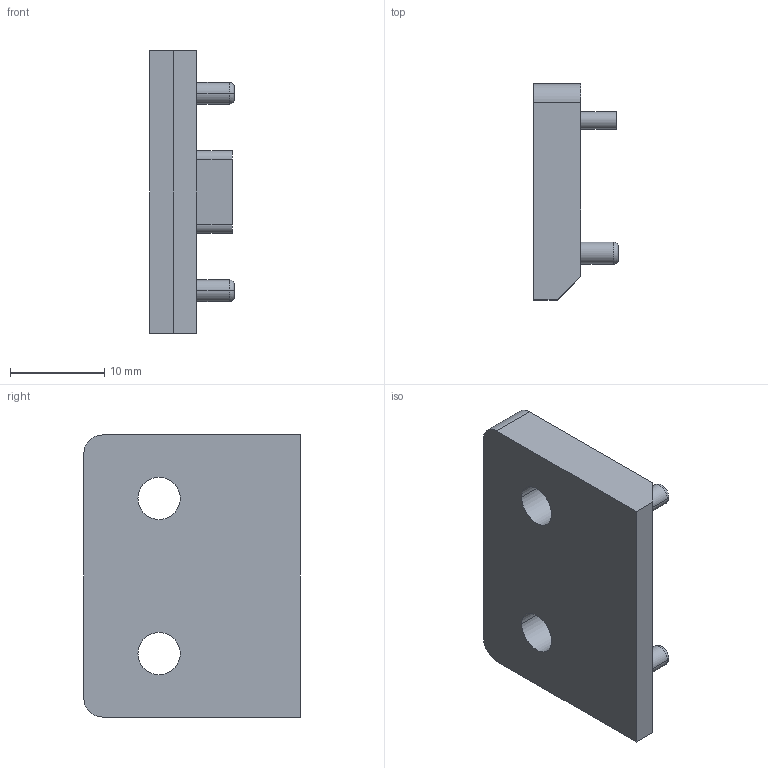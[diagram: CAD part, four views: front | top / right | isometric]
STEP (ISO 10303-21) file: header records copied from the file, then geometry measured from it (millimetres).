
FILE_DESCRIPTION (( 'STEP AP203' ), '1' );
FILE_NAME ('F043351.STEP', '2017-03-22T12:59:34', ( 'Localadmin' ), ( 'Microsoft' ), 'SwSTEP 2.0', 'SolidWorks 2016', '' );
FILE_SCHEMA (( 'CONFIG_CONTROL_DESIGN' ));
Length unit declared in the file: millimetre
Products named in the file (1): F043351
Bounding box: 9 x 23 x 30 mm (x, y, z)
Volume: 3278.7 mm3; surface area: 2054.7 mm2
Topology: 1 solids, 1 shells, 28 faces, 65 edges, 42 vertices
Faces by surface type: cylinder 12, plane 12, torus 4
Entity records: 894 total; most frequent: DIRECTION 155, CARTESIAN_POINT 136, ORIENTED_EDGE 130, EDGE_CURVE 65, AXIS2_PLACEMENT_3D 61, VERTEX_POINT 42, EDGE_LOOP 35, LINE 33
